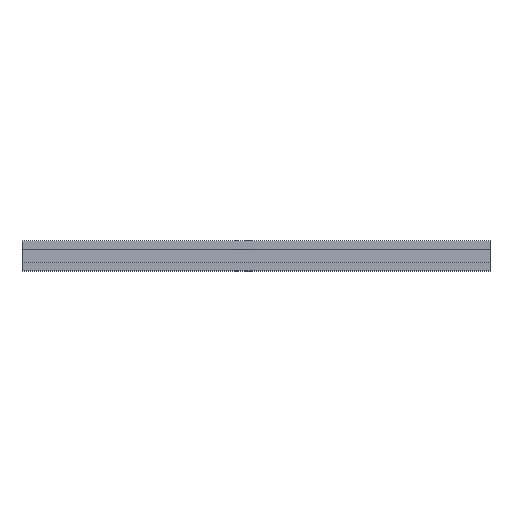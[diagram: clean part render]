
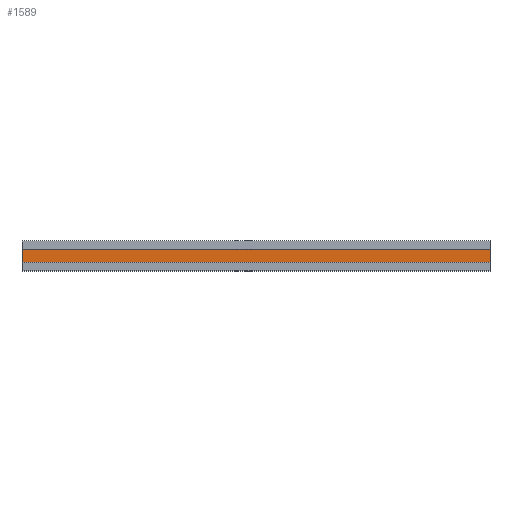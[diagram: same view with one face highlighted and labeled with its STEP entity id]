
A CAD part, top view. The second image highlights one B-rep face of the part: STEP entity #1589.
In plain terms, the highlighted planar face has unit normal (0, 0, 1).
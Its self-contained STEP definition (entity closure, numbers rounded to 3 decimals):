
#759 = VERTEX_POINT ( 'NONE', #3616 ) ;
#791 = VERTEX_POINT ( 'NONE', #2884 ) ;
#813 = VERTEX_POINT ( 'NONE', #2906 ) ;
#1001 = EDGE_LOOP ( 'NONE', ( #4142, #4084, #4082, #4126 ) ) ;
#1589 = ADVANCED_FACE ( 'NONE', ( #2097 ), #2091, .F. ) ;
#1644 = EDGE_CURVE ( 'NONE', #813, #791, #2342, .T. ) ;
#1645 = EDGE_CURVE ( 'NONE', #813, #759, #2348, .T. ) ;
#1654 = EDGE_CURVE ( 'NONE', #759, #3736, #4423, .T. ) ;
#1655 = EDGE_CURVE ( 'NONE', #791, #3736, #4434, .T. ) ;
#2091 = PLANE ( 'NONE',  #4023 ) ;
#2093 = CARTESIAN_POINT ( 'NONE',  ( 0., -14.25, 10.25 ) ) ;
#2097 = FACE_OUTER_BOUND ( 'NONE', #1001, .T. ) ;
#2099 = DIRECTION ( 'NONE',  ( 0., 0., -1. ) ) ;
#2100 = DIRECTION ( 'NONE',  ( -1., 0., 0. ) ) ;
#2342 = LINE ( 'NONE', #4404, #3764 ) ;
#2348 = LINE ( 'NONE', #4407, #3751 ) ;
#2556 = CARTESIAN_POINT ( 'NONE',  ( -1000., -14.25, 10.25 ) ) ;
#2884 = CARTESIAN_POINT ( 'NONE',  ( -1000., 14.25, 10.25 ) ) ;
#2906 = CARTESIAN_POINT ( 'NONE',  ( 0., 14.25, 10.25 ) ) ;
#3616 = CARTESIAN_POINT ( 'NONE',  ( 0., -14.25, 10.25 ) ) ;
#3736 = VERTEX_POINT ( 'NONE', #2556 ) ;
#3751 = VECTOR ( 'NONE', #4408, 1000. ) ;
#3764 = VECTOR ( 'NONE', #4406, 1000. ) ;
#3777 = VECTOR ( 'NONE', #4433, 1000. ) ;
#3799 = VECTOR ( 'NONE', #4436, 1000. ) ;
#4023 = AXIS2_PLACEMENT_3D ( 'NONE', #2093, #2099, #2100 ) ;
#4082 = ORIENTED_EDGE ( 'NONE', *, *, #1645, .F. ) ;
#4084 = ORIENTED_EDGE ( 'NONE', *, *, #1654, .F. ) ;
#4126 = ORIENTED_EDGE ( 'NONE', *, *, #1644, .T. ) ;
#4142 = ORIENTED_EDGE ( 'NONE', *, *, #1655, .T. ) ;
#4404 = CARTESIAN_POINT ( 'NONE',  ( 0., 14.25, 10.25 ) ) ;
#4406 = DIRECTION ( 'NONE',  ( -1., 0., 0. ) ) ;
#4407 = CARTESIAN_POINT ( 'NONE',  ( 0., -14.25, 10.25 ) ) ;
#4408 = DIRECTION ( 'NONE',  ( 0., -1., 0. ) ) ;
#4423 = LINE ( 'NONE', #4432, #3777 ) ;
#4432 = CARTESIAN_POINT ( 'NONE',  ( 0., -14.25, 10.25 ) ) ;
#4433 = DIRECTION ( 'NONE',  ( -1., 0., 0. ) ) ;
#4434 = LINE ( 'NONE', #4435, #3799 ) ;
#4435 = CARTESIAN_POINT ( 'NONE',  ( -1000., -14.25, 10.25 ) ) ;
#4436 = DIRECTION ( 'NONE',  ( 0., -1., 0. ) ) ;
